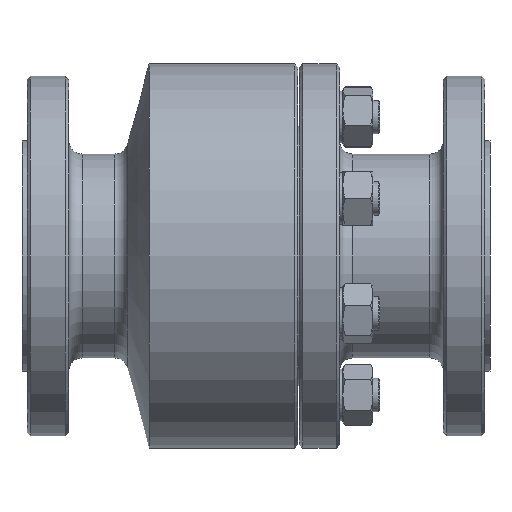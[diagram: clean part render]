
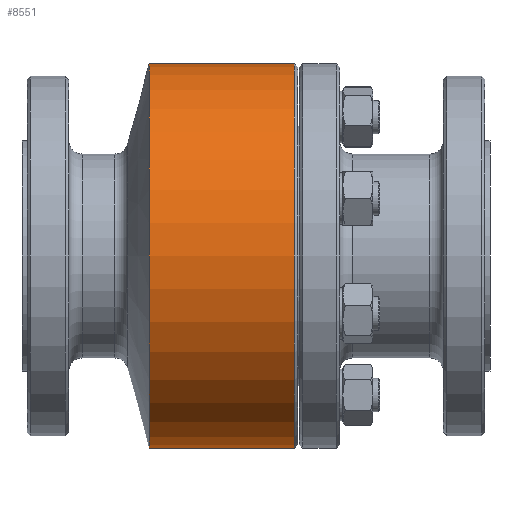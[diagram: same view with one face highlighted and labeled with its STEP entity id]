
A CAD part, front view. The second image highlights one B-rep face of the part: STEP entity #8551.
In plain terms, the highlighted cylindrical face has radius 115 mm (diameter 230 mm), a full revolution.
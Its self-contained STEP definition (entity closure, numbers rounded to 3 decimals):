
#5865=CARTESIAN_POINT('',(25.0,114.0,15.133));
#5866=VERTEX_POINT('',#5865);
#5867=CARTESIAN_POINT('',(25.0,112.876,22.0));
#5868=VERTEX_POINT('',#5867);
#5869=CARTESIAN_POINT('',(25.,0.0,0.0));
#5870=DIRECTION('',(1.0,0.0,0.0));
#5871=DIRECTION('',(0.0,-1.0,0.0));
#5872=AXIS2_PLACEMENT_3D('',#5869,#5870,#5871);
#5873=CIRCLE('',#5872,115.0);
#5874=EDGE_CURVE('',#5866,#5868,#5873,.T.);
#5959=CARTESIAN_POINT('',(-25.,114.0,-15.133));
#5960=VERTEX_POINT('',#5959);
#6083=CARTESIAN_POINT('',(-25.,112.876,-22.0));
#6084=VERTEX_POINT('',#6083);
#6085=CARTESIAN_POINT('',(-25.,0.0,0.0));
#6086=DIRECTION('',(-1.0,0.0,0.0));
#6087=DIRECTION('',(0.0,-1.0,0.0));
#6088=AXIS2_PLACEMENT_3D('',#6085,#6086,#6087);
#6089=CIRCLE('',#6088,115.0);
#6090=EDGE_CURVE('',#5960,#6084,#6089,.T.);
#6240=CARTESIAN_POINT('',(-25.,106.0,-44.598));
#6241=VERTEX_POINT('',#6240);
#6248=CARTESIAN_POINT('',(-25.,0.0,0.0));
#6249=DIRECTION('',(-1.0,0.0,0.0));
#6250=DIRECTION('',(0.0,-1.0,0.0));
#6251=AXIS2_PLACEMENT_3D('',#6248,#6249,#6250);
#6252=CIRCLE('',#6251,115.0);
#6253=EDGE_CURVE('',#6084,#6241,#6252,.T.);
#6264=CARTESIAN_POINT('',(-25.,106.0,44.598));
#6265=VERTEX_POINT('',#6264);
#6272=CARTESIAN_POINT('',(25.0,106.0,44.598));
#6273=VERTEX_POINT('',#6272);
#6274=CARTESIAN_POINT('',(25.0,106.0,44.598));
#6275=DIRECTION('',(-1.0,0.0,0.0));
#6276=VECTOR('',#6275,50.0);
#6277=LINE('',#6274,#6276);
#6278=EDGE_CURVE('',#6273,#6265,#6277,.T.);
#6299=CARTESIAN_POINT('',(25.0,106.0,-44.598));
#6300=VERTEX_POINT('',#6299);
#6307=CARTESIAN_POINT('',(-25.,106.0,-44.598));
#6308=DIRECTION('',(1.0,0.0,0.0));
#6309=VECTOR('',#6308,50.0);
#6310=LINE('',#6307,#6309);
#6311=EDGE_CURVE('',#6241,#6300,#6310,.T.);
#6324=CARTESIAN_POINT('',(25.,0.0,0.0));
#6325=DIRECTION('',(1.0,0.0,0.0));
#6326=DIRECTION('',(0.0,-1.0,0.0));
#6327=AXIS2_PLACEMENT_3D('',#6324,#6325,#6326);
#6328=CIRCLE('',#6327,115.0);
#6329=EDGE_CURVE('',#5868,#6273,#6328,.T.);
#6341=CARTESIAN_POINT('',(25.,0.0,0.0));
#6342=DIRECTION('',(1.0,0.0,0.0));
#6343=DIRECTION('',(0.0,-1.0,0.0));
#6344=AXIS2_PLACEMENT_3D('',#6341,#6342,#6343);
#6345=CIRCLE('',#6344,115.0);
#6346=EDGE_CURVE('',#6300,#5866,#6345,.T.);
#6570=CARTESIAN_POINT('',(-25.,0.0,0.0));
#6571=DIRECTION('',(-1.0,0.0,0.0));
#6572=DIRECTION('',(0.0,-1.0,0.0));
#6573=AXIS2_PLACEMENT_3D('',#6570,#6571,#6572);
#6574=CIRCLE('',#6573,115.0);
#6575=EDGE_CURVE('',#6265,#5960,#6574,.T.);
#8334=CARTESIAN_POINT('',(-36.0,-115.0,0.0));
#8335=VERTEX_POINT('',#8334);
#8336=CARTESIAN_POINT('',(-36.0,0.0,0.0));
#8337=DIRECTION('',(1.0,0.0,0.0));
#8338=DIRECTION('',(0.0,-1.0,0.0));
#8339=AXIS2_PLACEMENT_3D('',#8336,#8337,#8338);
#8340=CIRCLE('',#8339,115.0);
#8341=EDGE_CURVE('',#8335,#8335,#8340,.T.);
#8522=CARTESIAN_POINT('',(7.5,0.0,0.0));
#8523=DIRECTION('',(1.0,0.0,0.0));
#8524=DIRECTION('',(0.0,-1.0,0.0));
#8525=AXIS2_PLACEMENT_3D('',#8522,#8523,#8524);
#8526=CYLINDRICAL_SURFACE('',#8525,115.0);
#8527=CARTESIAN_POINT('',(51.,-115.0,0.0));
#8528=VERTEX_POINT('',#8527);
#8529=CARTESIAN_POINT('',(51.,0.0,0.0));
#8530=DIRECTION('',(1.0,0.0,0.0));
#8531=DIRECTION('',(0.0,-1.0,0.0));
#8532=AXIS2_PLACEMENT_3D('',#8529,#8530,#8531);
#8533=CIRCLE('',#8532,115.0);
#8534=EDGE_CURVE('',#8528,#8528,#8533,.T.);
#8535=ORIENTED_EDGE('',*,*,#8534,.F.);
#8536=EDGE_LOOP('',(#8535));
#8537=FACE_OUTER_BOUND('',#8536,.T.);
#8538=ORIENTED_EDGE('',*,*,#6575,.T.);
#8539=ORIENTED_EDGE('',*,*,#6090,.T.);
#8540=ORIENTED_EDGE('',*,*,#6253,.T.);
#8541=ORIENTED_EDGE('',*,*,#6311,.T.);
#8542=ORIENTED_EDGE('',*,*,#6346,.T.);
#8543=ORIENTED_EDGE('',*,*,#5874,.T.);
#8544=ORIENTED_EDGE('',*,*,#6329,.T.);
#8545=ORIENTED_EDGE('',*,*,#6278,.T.);
#8546=EDGE_LOOP('',(#8538,#8539,#8540,#8541,#8542,#8543,#8544,#8545));
#8547=FACE_BOUND('',#8546,.T.);
#8548=ORIENTED_EDGE('',*,*,#8341,.T.);
#8549=EDGE_LOOP('',(#8548));
#8550=FACE_BOUND('',#8549,.T.);
#8551=ADVANCED_FACE('',(#8537,#8547,#8550),#8526,.T.);
